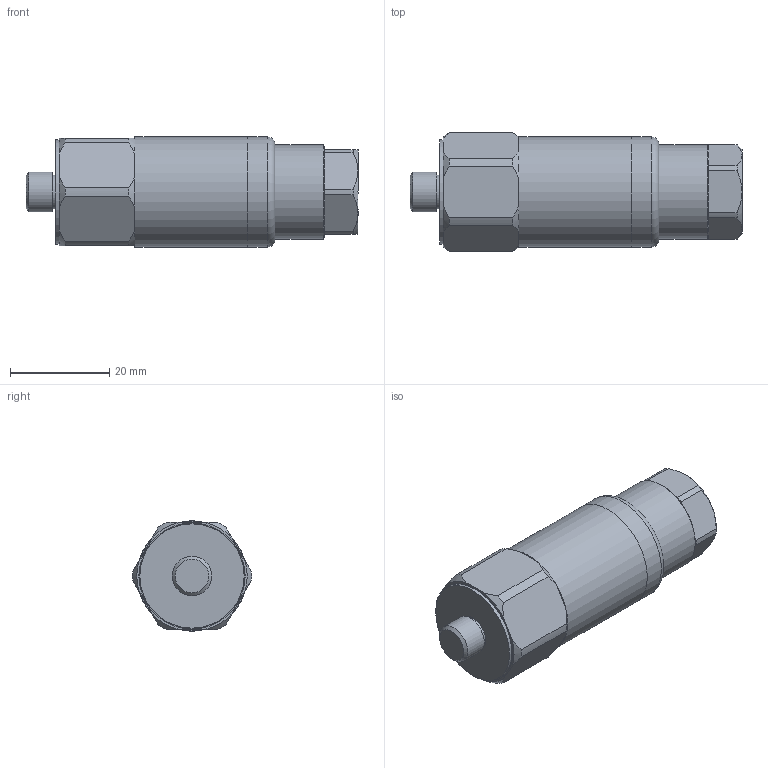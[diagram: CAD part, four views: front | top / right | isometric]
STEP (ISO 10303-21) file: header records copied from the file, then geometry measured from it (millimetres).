
FILE_DESCRIPTION(/* description */ (''),/* implementation_level */ '2;1');
FILE_NAME(/* name */ 'Z:\Engineering\Drawings\3D Library\Assemblies\Website\Premium Top\HS-150 Top Silicon\HS-150XXX0708.stp',/* time_stamp */ '2023-03-12T11:30:07+00:00',/* author */ ('Ricardo.Peneda'),/* organization */ (''),/* preprocessor_version */ 'ST-DEVELOPER v18.1',/* originating_system */ 'Autodesk Inventor 2021',/* authorisation */ '');
FILE_SCHEMA (('AUTOMOTIVE_DESIGN { 1 0 10303 214 3 1 1 }'));
Length unit declared in the file: inch
Products named in the file (1): HS-150XXX0708_Shrinkwrap_1
Bounding box: 66.9 x 23.99 x 22.2 mm (x, y, z)
Volume: 13992.2 mm3; surface area: 8914 mm2
Topology: 4 solids, 4 shells, 95 faces, 243 edges, 172 vertices
Faces by surface type: plane 42, cylinder 33, cone 19, torus 1
Full cylindrical faces by diameter (mm): 5 x1, 5.359 x1, 6.35 x1, 6.8 x1, 7 x1, 7.5 x1, 8 x1, 9 x1, 12 x2, 14 x1, 15 x2, 15.055 x1, 18 x1, 19 x1, 19.95 x1, 20 x1, 21 x1, 22.2 x2
Entity records: 3095 total; most frequent: CARTESIAN_POINT 582, DIRECTION 534, ORIENTED_EDGE 484, EDGE_CURVE 242, AXIS2_PLACEMENT_3D 232, VERTEX_POINT 172, CIRCLE 136, EDGE_LOOP 116
